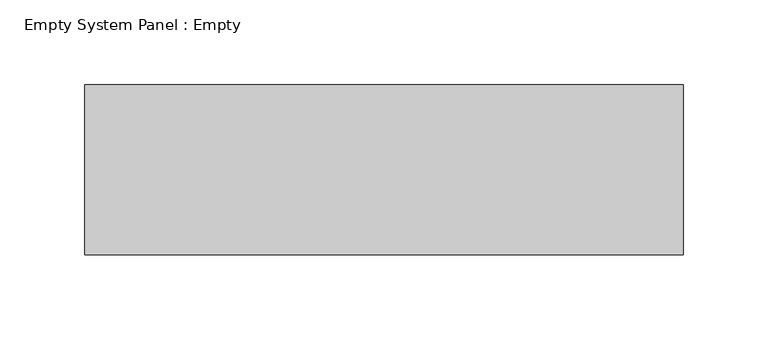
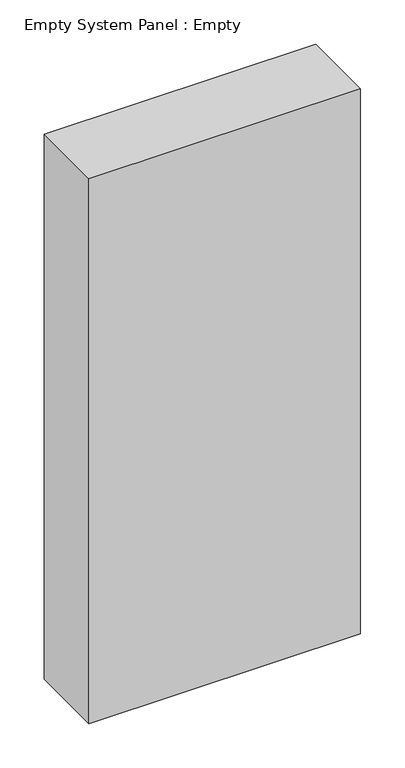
"""IFC4 building model written with IfcOpenShell, lengths in millimetres: plate geometry, Empty System Panel : Empty."""

from ifc_helpers import new_model, si_unit, origin, origin_with_axes, place, context, project, spatial, polyline, outline, extrude, source, transform, mapped, element, save


def empty_system_panel_empty_7f93cfdc(model_context):
    return source(origin(), model_context, "Body", "SweptSolid", [
        extrude(outline(polyline([(176.25, -50.0), (-176.25, -50.0), (-176.25, 50.0), (176.25, 50.0), (176.25, -50.0)])), origin_with_axes(), (0.0, 0.0, 1.0), 748.2),
    ])


if __name__ == "__main__":
    model = new_model("IFC4")
    model_context = context("Model", 3, world=origin())
    ifc_project = project(units=[si_unit("LENGTHUNIT", "METRE", prefix="MILLI")], contexts=[model_context])
    site = spatial("IfcSite", under=ifc_project)
    building = spatial("IfcBuilding", under=site)
    placement = place(None, origin())
    empty_system_panel_empty_shape = empty_system_panel_empty_7f93cfdc(model_context)
    element("IfcPlate", 1, ObjectType="Empty System Panel : Empty", at=placement, inside=building, context=model_context, shape_type="MappedRepresentation", body=[
        mapped(empty_system_panel_empty_shape, transform((0.0, 0.0, 0.0), x_axis=(1.0, 0.0, 0.0), y_axis=(0.0, 1.0, 0.0), z_axis=(0.0, 0.0, 1.0))),
    ])
    save(model, "model.ifc")
